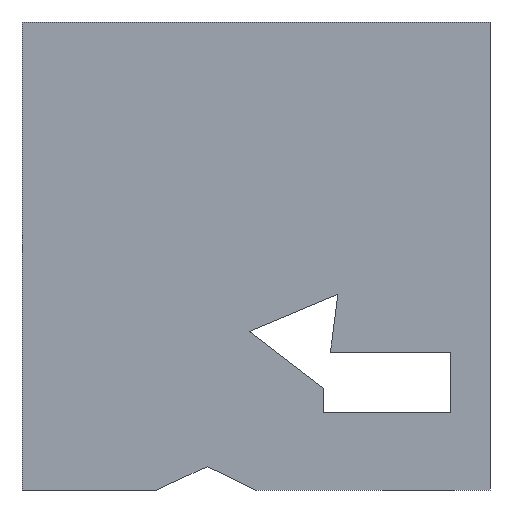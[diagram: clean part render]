
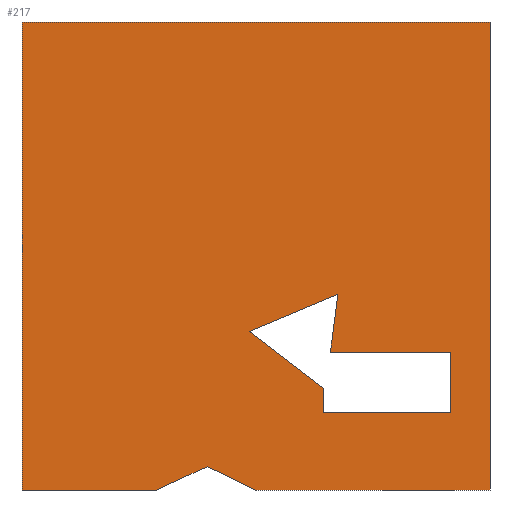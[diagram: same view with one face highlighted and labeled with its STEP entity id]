
A CAD part, left-side view. The second image highlights one B-rep face of the part: STEP entity #217.
In plain terms, the highlighted planar face has unit normal (-1, 0, 0).
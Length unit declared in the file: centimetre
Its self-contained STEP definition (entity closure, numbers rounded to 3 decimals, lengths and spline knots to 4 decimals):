
#13 = CARTESIAN_POINT ( 'NONE',  ( 0., 355.2452, 164.9566 ) ) ;
#24 = ORIENTED_EDGE ( 'NONE', *, *, #657, .T. ) ;
#28 = ORIENTED_EDGE ( 'NONE', *, *, #345, .T. ) ;
#29 = LINE ( 'NONE', #906, #297 ) ;
#33 = VECTOR ( 'NONE', #202, 100. ) ;
#42 = EDGE_CURVE ( 'NONE', #358, #982, #138, .T. ) ;
#47 = CARTESIAN_POINT ( 'NONE',  ( 0., 1000., 1000. ) ) ;
#55 = VECTOR ( 'NONE', #662, 100. ) ;
#57 = ORIENTED_EDGE ( 'NONE', *, *, #426, .T. ) ;
#62 = ORIENTED_EDGE ( 'NONE', *, *, #42, .T. ) ;
#73 = LINE ( 'NONE', #776, #892 ) ;
#87 = CARTESIAN_POINT ( 'NONE',  ( 0., 0., 0. ) ) ;
#102 = DIRECTION ( 'NONE',  ( 0., 0., -1. ) ) ;
#118 = VERTEX_POINT ( 'NONE', #615 ) ;
#120 = ORIENTED_EDGE ( 'NONE', *, *, #390, .F. ) ;
#124 = CARTESIAN_POINT ( 'NONE',  ( 0., 355.2452, 164.9566 ) ) ;
#129 = CARTESIAN_POINT ( 'NONE',  ( 0., 340.9498, 294.6606 ) ) ;
#130 = ORIENTED_EDGE ( 'NONE', *, *, #936, .F. ) ;
#138 = LINE ( 'NONE', #769, #33 ) ;
#142 = VERTEX_POINT ( 'NONE', #143 ) ;
#143 = CARTESIAN_POINT ( 'NONE',  ( 0., 712.0602, 0. ) ) ;
#146 = DIRECTION ( 'NONE',  ( 0., 0., -1. ) ) ;
#156 = DIRECTION ( 'NONE',  ( 0., -1., 0. ) ) ;
#157 = EDGE_LOOP ( 'NONE', ( #529, #556, #663, #120, #130, #423, #608 ) ) ;
#178 = DIRECTION ( 'NONE',  ( 0., -0.907, 0.422 ) ) ;
#190 = DIRECTION ( 'NONE',  ( 0., -1., 0. ) ) ;
#194 = EDGE_CURVE ( 'NONE', #492, #590, #237, .T. ) ;
#201 = EDGE_CURVE ( 'NONE', #969, #505, #393, .T. ) ;
#202 = DIRECTION ( 'NONE',  ( 0., 0.795, 0.607 ) ) ;
#204 = ORIENTED_EDGE ( 'NONE', *, *, #201, .T. ) ;
#217 = ADVANCED_FACE ( 'NONE', ( #552, #882 ), #887, .F. ) ;
#223 = CARTESIAN_POINT ( 'NONE',  ( 0., 1000., 1000. ) ) ;
#237 = LINE ( 'NONE', #304, #532 ) ;
#249 = VECTOR ( 'NONE', #178, 100. ) ;
#268 = LINE ( 'NONE', #124, #377 ) ;
#297 = VECTOR ( 'NONE', #190, 100. ) ;
#304 = CARTESIAN_POINT ( 'NONE',  ( 0., 500., 0. ) ) ;
#310 = VECTOR ( 'NONE', #397, 100. ) ;
#324 = VECTOR ( 'NONE', #156, 100. ) ;
#345 = EDGE_CURVE ( 'NONE', #864, #969, #1032, .T. ) ;
#357 = CARTESIAN_POINT ( 'NONE',  ( 0., 83.7534, 164.9566 ) ) ;
#358 = VERTEX_POINT ( 'NONE', #1022 ) ;
#361 = EDGE_CURVE ( 'NONE', #982, #718, #73, .T. ) ;
#370 = CARTESIAN_POINT ( 'NONE',  ( 0., 1000., 0. ) ) ;
#377 = VECTOR ( 'NONE', #675, 100. ) ;
#390 = EDGE_CURVE ( 'NONE', #406, #494, #530, .T. ) ;
#393 = LINE ( 'NONE', #877, #978 ) ;
#397 = DIRECTION ( 'NONE',  ( 0., 0.128, -0.992 ) ) ;
#406 = VERTEX_POINT ( 'NONE', #1036 ) ;
#410 = AXIS2_PLACEMENT_3D ( 'NONE', #719, #649, #893 ) ;
#411 = CARTESIAN_POINT ( 'NONE',  ( 0., 1000., 0. ) ) ;
#412 = VECTOR ( 'NONE', #1035, 100. ) ;
#419 = CARTESIAN_POINT ( 'NONE',  ( 0., 604.4967, 50. ) ) ;
#423 = ORIENTED_EDGE ( 'NONE', *, *, #862, .T. ) ;
#424 = LINE ( 'NONE', #419, #249 ) ;
#426 = EDGE_CURVE ( 'NONE', #718, #621, #977, .T. ) ;
#447 = LINE ( 'NONE', #223, #412 ) ;
#451 = DIRECTION ( 'NONE',  ( 0., 0., -1. ) ) ;
#463 = EDGE_CURVE ( 'NONE', #590, #494, #973, .T. ) ;
#485 = ORIENTED_EDGE ( 'NONE', *, *, #557, .T. ) ;
#492 = VERTEX_POINT ( 'NONE', #738 ) ;
#493 = LINE ( 'NONE', #765, #55 ) ;
#494 = VERTEX_POINT ( 'NONE', #87 ) ;
#505 = VERTEX_POINT ( 'NONE', #13 ) ;
#509 = LINE ( 'NONE', #47, #926 ) ;
#511 = VECTOR ( 'NONE', #146, 100. ) ;
#518 = CARTESIAN_POINT ( 'NONE',  ( 0., 325.0538, 418.0564 ) ) ;
#529 = ORIENTED_EDGE ( 'NONE', *, *, #578, .T. ) ;
#530 = LINE ( 'NONE', #958, #684 ) ;
#532 = VECTOR ( 'NONE', #967, 100. ) ;
#552 = FACE_BOUND ( 'NONE', #944, .T. ) ;
#556 = ORIENTED_EDGE ( 'NONE', *, *, #194, .T. ) ;
#557 = EDGE_CURVE ( 'NONE', #621, #864, #29, .T. ) ;
#558 = DIRECTION ( 'NONE',  ( 0., 1., 0. ) ) ;
#578 = EDGE_CURVE ( 'NONE', #142, #492, #424, .T. ) ;
#590 = VERTEX_POINT ( 'NONE', #751 ) ;
#608 = ORIENTED_EDGE ( 'NONE', *, *, #855, .T. ) ;
#611 = ORIENTED_EDGE ( 'NONE', *, *, #361, .T. ) ;
#615 = CARTESIAN_POINT ( 'NONE',  ( 0., 1000., 1000. ) ) ;
#621 = VERTEX_POINT ( 'NONE', #129 ) ;
#649 = DIRECTION ( 'NONE',  ( 1., 0., 0. ) ) ;
#657 = EDGE_CURVE ( 'NONE', #505, #358, #268, .T. ) ;
#659 = CARTESIAN_POINT ( 'NONE',  ( 0., 351.3382, 214.0197 ) ) ;
#662 = DIRECTION ( 'NONE',  ( 0., -1., 0. ) ) ;
#663 = ORIENTED_EDGE ( 'NONE', *, *, #463, .T. ) ;
#675 = DIRECTION ( 'NONE',  ( 0., 0., 1. ) ) ;
#684 = VECTOR ( 'NONE', #451, 100. ) ;
#714 = CARTESIAN_POINT ( 'NONE',  ( 0., 514.897, 338.801 ) ) ;
#718 = VERTEX_POINT ( 'NONE', #518 ) ;
#719 = CARTESIAN_POINT ( 'NONE',  ( 0., 1000., 1000. ) ) ;
#738 = CARTESIAN_POINT ( 'NONE',  ( 0., 604.4967, 50. ) ) ;
#751 = CARTESIAN_POINT ( 'NONE',  ( 0., 500., 0. ) ) ;
#765 = CARTESIAN_POINT ( 'NONE',  ( 0., 1000., 0. ) ) ;
#769 = CARTESIAN_POINT ( 'NONE',  ( 0., 514.897, 338.801 ) ) ;
#776 = CARTESIAN_POINT ( 'NONE',  ( 0., 325.0538, 418.0564 ) ) ;
#834 = CARTESIAN_POINT ( 'NONE',  ( 0., 83.7534, 294.6606 ) ) ;
#855 = EDGE_CURVE ( 'NONE', #1015, #142, #493, .T. ) ;
#862 = EDGE_CURVE ( 'NONE', #118, #1015, #509, .T. ) ;
#864 = VERTEX_POINT ( 'NONE', #834 ) ;
#869 = CARTESIAN_POINT ( 'NONE',  ( 0., 83.7534, 164.9566 ) ) ;
#877 = CARTESIAN_POINT ( 'NONE',  ( 0., 83.7534, 164.9566 ) ) ;
#882 = FACE_OUTER_BOUND ( 'NONE', #157, .T. ) ;
#887 = PLANE ( 'NONE',  #410 ) ;
#892 = VECTOR ( 'NONE', #1041, 100. ) ;
#893 = DIRECTION ( 'NONE',  ( 0., 0., -1. ) ) ;
#906 = CARTESIAN_POINT ( 'NONE',  ( 0., 83.7534, 294.6606 ) ) ;
#926 = VECTOR ( 'NONE', #102, 100. ) ;
#936 = EDGE_CURVE ( 'NONE', #118, #406, #447, .T. ) ;
#944 = EDGE_LOOP ( 'NONE', ( #57, #485, #28, #204, #24, #62, #611 ) ) ;
#958 = CARTESIAN_POINT ( 'NONE',  ( 0., 0., 1000. ) ) ;
#967 = DIRECTION ( 'NONE',  ( 0., -0.902, -0.432 ) ) ;
#969 = VERTEX_POINT ( 'NONE', #357 ) ;
#973 = LINE ( 'NONE', #411, #324 ) ;
#977 = LINE ( 'NONE', #659, #310 ) ;
#978 = VECTOR ( 'NONE', #558, 100. ) ;
#982 = VERTEX_POINT ( 'NONE', #714 ) ;
#1015 = VERTEX_POINT ( 'NONE', #370 ) ;
#1022 = CARTESIAN_POINT ( 'NONE',  ( 0., 355.2452, 217.0004 ) ) ;
#1032 = LINE ( 'NONE', #869, #511 ) ;
#1035 = DIRECTION ( 'NONE',  ( 0., -1., 0. ) ) ;
#1036 = CARTESIAN_POINT ( 'NONE',  ( 0., 0., 1000. ) ) ;
#1041 = DIRECTION ( 'NONE',  ( 0., -0.923, 0.385 ) ) ;
